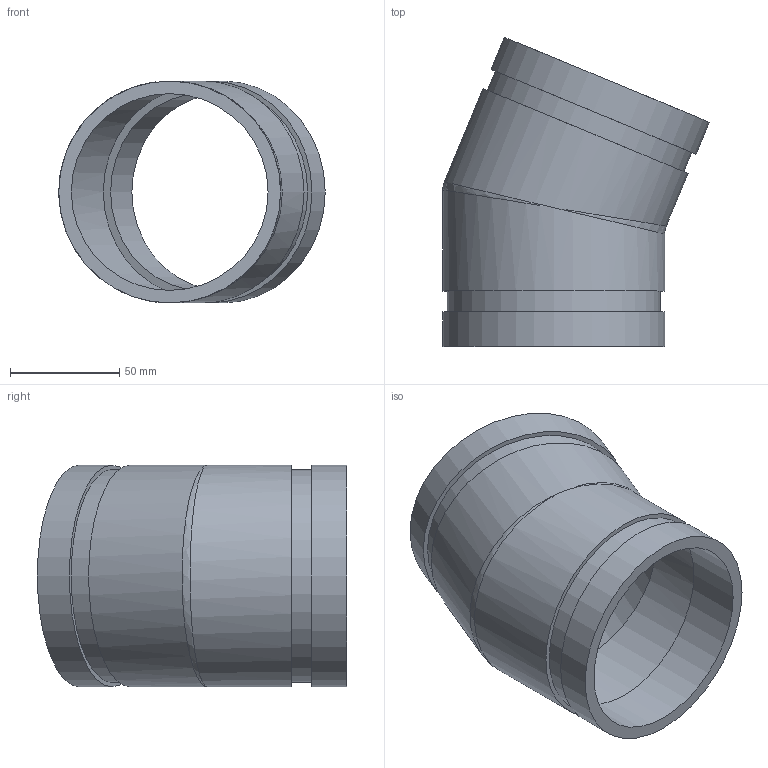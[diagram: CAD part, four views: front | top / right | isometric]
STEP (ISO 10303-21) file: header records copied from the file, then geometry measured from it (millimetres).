
FILE_DESCRIPTION(/* description */ ('VIC ELBOW 22 1/2 DEG No 12 (OGS)','CAx-IF Rec.Pracs.---Representation and Presentation of Product Manufacturing Information (PMI)---4.0---2014-10-13'),/* implementation_level */ '2;1');
FILE_NAME(/* name */ 'C:\Users\Vjadhav\Desktop\CAD for Inventor\1\12\STEP\Victaulic_IPS_Elbow 22.5 Deg_No 12 (OGS)\Victaulic_IPS_Elbow 22.5 Deg_No 12 (OGS)_3.5 (90).stp',/* time_stamp */ '2021-12-22T09:20:08+06:00',/* author */ ('CONSTRUCTION PIPING SERVICES'),/* organization */ ('Victaulic'),/* preprocessor_version */ 'ST-DEVELOPER v17.2',/* originating_system */ 'Autodesk Inventor 2019',/* authorisation */ '');
FILE_SCHEMA (('AP242_MANAGED_MODEL_BASED_3D_ENGINEERING_MIM_LF { 1 0 10303 442 1 1 4 }'));
Length unit declared in the file: inch
Products named in the file (1): 012-03.5
Bounding box: 122.03 x 141.61 x 101.6 mm (x, y, z)
Volume: 125477 mm3; surface area: 86205.4 mm2
Topology: 3 solids, 3 shells, 20 faces, 45 edges, 29 vertices
Faces by surface type: cylinder 10, plane 8, bspline 2
Full cylindrical faces by diameter (mm): 90.119 x2, 97.384 x4, 101.6 x4
Entity records: 790 total; most frequent: CARTESIAN_POINT 186, DIRECTION 136, ORIENTED_EDGE 82, AXIS2_PLACEMENT_3D 63, EDGE_CURVE 41, VERTEX_POINT 29, EDGE_LOOP 28, STYLED_ITEM 24
